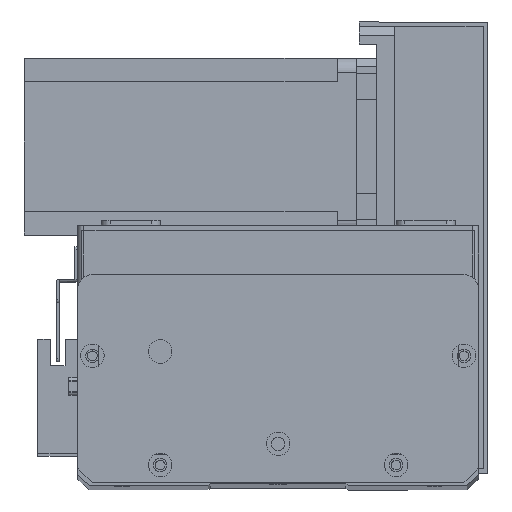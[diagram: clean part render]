
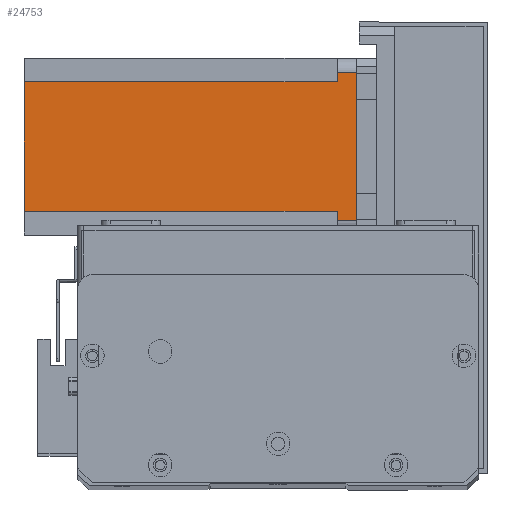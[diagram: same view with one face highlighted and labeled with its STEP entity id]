
A CAD part, top view. The second image highlights one B-rep face of the part: STEP entity #24753.
In plain terms, the highlighted planar face has unit normal (0, 0, 1) as drawn and (0, 1, 0) by its records, which use the part's own axes.
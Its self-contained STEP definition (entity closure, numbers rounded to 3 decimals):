
#73 = DIRECTION ( 'NONE',  ( 0., 0., 1. ) ) ;
#507 = CARTESIAN_POINT ( 'NONE',  ( 52., 60., -112.5 ) ) ;
#641 = DIRECTION ( 'NONE',  ( -1., 0., 0. ) ) ;
#735 = CARTESIAN_POINT ( 'NONE',  ( 8., 60., -6.5 ) ) ;
#759 = DIRECTION ( 'NONE',  ( -1., 0., 0. ) ) ;
#1643 = CARTESIAN_POINT ( 'NONE',  ( 0., 60., -112.5 ) ) ;
#1646 = CARTESIAN_POINT ( 'NONE',  ( 5., 60., 0. ) ) ;
#1653 = VERTEX_POINT ( 'NONE', #23319 ) ;
#3213 = CARTESIAN_POINT ( 'NONE',  ( 8., 60., -6.5 ) ) ;
#4268 = ORIENTED_EDGE ( 'NONE', *, *, #14038, .T. ) ;
#4401 = VECTOR ( 'NONE', #12265, 1000. ) ;
#4892 = LINE ( 'NONE', #507, #10299 ) ;
#5705 = ORIENTED_EDGE ( 'NONE', *, *, #14822, .F. ) ;
#6577 = DIRECTION ( 'NONE',  ( 0., 0., -1. ) ) ;
#7185 = CARTESIAN_POINT ( 'NONE',  ( 55., 60., -112.5 ) ) ;
#7376 = ORIENTED_EDGE ( 'NONE', *, *, #16054, .T. ) ;
#7449 = VECTOR ( 'NONE', #20868, 1000. ) ;
#8897 = VERTEX_POINT ( 'NONE', #14163 ) ;
#9194 = VECTOR ( 'NONE', #759, 1000. ) ;
#10064 = CARTESIAN_POINT ( 'NONE',  ( 0., 60., 0. ) ) ;
#10299 = VECTOR ( 'NONE', #73, 1000. ) ;
#10503 = DIRECTION ( 'NONE',  ( 0., 1., 0. ) ) ;
#10507 = VECTOR ( 'NONE', #641, 1000. ) ;
#10801 = VERTEX_POINT ( 'NONE', #21473 ) ;
#11566 = EDGE_CURVE ( 'NONE', #10801, #24828, #26120, .T. ) ;
#11898 = CARTESIAN_POINT ( 'NONE',  ( 5., 60., -6.5 ) ) ;
#12265 = DIRECTION ( 'NONE',  ( -1., 0., 0. ) ) ;
#12556 = EDGE_CURVE ( 'NONE', #13340, #24828, #13427, .T. ) ;
#12566 = ORIENTED_EDGE ( 'NONE', *, *, #13284, .F. ) ;
#12857 = VECTOR ( 'NONE', #22226, 1000. ) ;
#13247 = VERTEX_POINT ( 'NONE', #1646 ) ;
#13284 = EDGE_CURVE ( 'NONE', #8897, #13340, #4892, .T. ) ;
#13340 = VERTEX_POINT ( 'NONE', #18424 ) ;
#13427 = LINE ( 'NONE', #21264, #7449 ) ;
#13879 = EDGE_LOOP ( 'NONE', ( #18640, #20345, #22984, #12566, #4268, #5705, #7376, #23160 ) ) ;
#14038 = EDGE_CURVE ( 'NONE', #8897, #1653, #15133, .T. ) ;
#14163 = CARTESIAN_POINT ( 'NONE',  ( 52., 60., -112.5 ) ) ;
#14822 = EDGE_CURVE ( 'NONE', #28243, #1653, #27780, .T. ) ;
#15133 = LINE ( 'NONE', #1643, #9194 ) ;
#15435 = VECTOR ( 'NONE', #18661, 1000. ) ;
#16054 = EDGE_CURVE ( 'NONE', #28243, #19724, #27376, .T. ) ;
#17099 = CARTESIAN_POINT ( 'NONE',  ( 0., 60., -112.5 ) ) ;
#17755 = EDGE_CURVE ( 'NONE', #19724, #13247, #19400, .T. ) ;
#18424 = CARTESIAN_POINT ( 'NONE',  ( 52., 60., -6.5 ) ) ;
#18640 = ORIENTED_EDGE ( 'NONE', *, *, #27381, .F. ) ;
#18661 = DIRECTION ( 'NONE',  ( 0., 0., -1. ) ) ;
#18698 = CARTESIAN_POINT ( 'NONE',  ( 8., 60., -112.5 ) ) ;
#19400 = LINE ( 'NONE', #19985, #12857 ) ;
#19724 = VERTEX_POINT ( 'NONE', #11898 ) ;
#19985 = CARTESIAN_POINT ( 'NONE',  ( 5., 60., -112.5 ) ) ;
#20248 = VECTOR ( 'NONE', #6577, 1000. ) ;
#20345 = ORIENTED_EDGE ( 'NONE', *, *, #11566, .T. ) ;
#20831 = AXIS2_PLACEMENT_3D ( 'NONE', #17099, #10503, #25934 ) ;
#20868 = DIRECTION ( 'NONE',  ( 1., 0., 0. ) ) ;
#21264 = CARTESIAN_POINT ( 'NONE',  ( 52., 60., -6.5 ) ) ;
#21473 = CARTESIAN_POINT ( 'NONE',  ( 55., 60., 0. ) ) ;
#21710 = CARTESIAN_POINT ( 'NONE',  ( 55., 60., -6.5 ) ) ;
#22226 = DIRECTION ( 'NONE',  ( 0., 0., 1. ) ) ;
#22984 = ORIENTED_EDGE ( 'NONE', *, *, #12556, .F. ) ;
#23160 = ORIENTED_EDGE ( 'NONE', *, *, #17755, .T. ) ;
#23319 = CARTESIAN_POINT ( 'NONE',  ( 8., 60., -112.5 ) ) ;
#23674 = LINE ( 'NONE', #10064, #4401 ) ;
#23749 = PLANE ( 'NONE',  #20831 ) ;
#24753 = ADVANCED_FACE ( 'NONE', ( #25644 ), #23749, .T. ) ;
#24828 = VERTEX_POINT ( 'NONE', #21710 ) ;
#25644 = FACE_OUTER_BOUND ( 'NONE', #13879, .T. ) ;
#25934 = DIRECTION ( 'NONE',  ( 0., 0., 1. ) ) ;
#26120 = LINE ( 'NONE', #7185, #20248 ) ;
#27376 = LINE ( 'NONE', #735, #10507 ) ;
#27381 = EDGE_CURVE ( 'NONE', #10801, #13247, #23674, .T. ) ;
#27780 = LINE ( 'NONE', #18698, #15435 ) ;
#28243 = VERTEX_POINT ( 'NONE', #3213 ) ;
